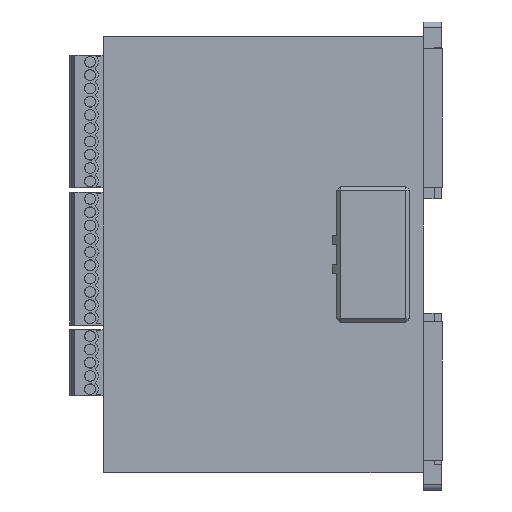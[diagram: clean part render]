
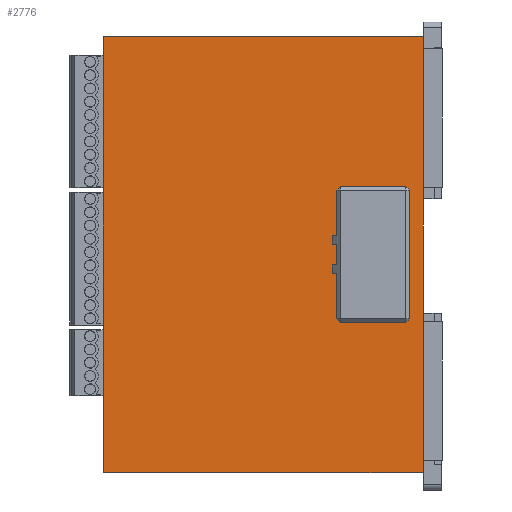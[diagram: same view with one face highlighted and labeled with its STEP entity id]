
A CAD part, left-side view. The second image highlights one B-rep face of the part: STEP entity #2776.
In plain terms, the highlighted planar face has unit normal (-1, 0, 0).
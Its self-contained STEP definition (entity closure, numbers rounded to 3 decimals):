
#631 = LINE ( 'NONE', #5703, #12968 ) ;
#788 = VECTOR ( 'NONE', #21688, 1000. ) ;
#996 = CARTESIAN_POINT ( 'NONE',  ( 0., 21.55, 17.2 ) ) ;
#1423 = VECTOR ( 'NONE', #9023, 1000. ) ;
#1445 = AXIS2_PLACEMENT_3D ( 'NONE', #7266, #7193, #20757 ) ;
#1590 = EDGE_CURVE ( 'NONE', #6653, #5930, #7917, .T. ) ;
#1711 = CARTESIAN_POINT ( 'NONE',  ( 0., 0., 57.5 ) ) ;
#2045 = DIRECTION ( 'NONE',  ( 0., 1., 0. ) ) ;
#2049 = VERTEX_POINT ( 'NONE', #5026 ) ;
#2154 = CARTESIAN_POINT ( 'NONE',  ( 0., 0., -57.5 ) ) ;
#2173 = EDGE_LOOP ( 'NONE', ( #16704, #8273, #7251, #5853 ) ) ;
#2391 = CARTESIAN_POINT ( 'NONE',  ( 0., 0., 57.5 ) ) ;
#2776 = ADVANCED_FACE ( 'NONE', ( #6834, #15293 ), #7059, .F. ) ;
#2826 = VERTEX_POINT ( 'NONE', #2154 ) ;
#3483 = VECTOR ( 'NONE', #20472, 1000. ) ;
#4325 = EDGE_CURVE ( 'NONE', #5930, #10669, #17368, .T. ) ;
#4732 = VECTOR ( 'NONE', #17693, 1000. ) ;
#4739 = DIRECTION ( 'NONE',  ( 0., -1., 0. ) ) ;
#5026 = CARTESIAN_POINT ( 'NONE',  ( 0., 21.55, -17.2 ) ) ;
#5150 = CARTESIAN_POINT ( 'NONE',  ( 0., 21.55, 17.2 ) ) ;
#5637 = ORIENTED_EDGE ( 'NONE', *, *, #1590, .T. ) ;
#5703 = CARTESIAN_POINT ( 'NONE',  ( 0., 84.4, 57.5 ) ) ;
#5766 = VERTEX_POINT ( 'NONE', #11735 ) ;
#5853 = ORIENTED_EDGE ( 'NONE', *, *, #19733, .T. ) ;
#5930 = VERTEX_POINT ( 'NONE', #9012 ) ;
#6638 = LINE ( 'NONE', #17298, #1423 ) ;
#6653 = VERTEX_POINT ( 'NONE', #996 ) ;
#6834 = FACE_OUTER_BOUND ( 'NONE', #2173, .T. ) ;
#7059 = PLANE ( 'NONE',  #1445 ) ;
#7193 = DIRECTION ( 'NONE',  ( 1., 0., 0. ) ) ;
#7194 = LINE ( 'NONE', #1711, #18821 ) ;
#7251 = ORIENTED_EDGE ( 'NONE', *, *, #14107, .F. ) ;
#7266 = CARTESIAN_POINT ( 'NONE',  ( 0., 0., 57.5 ) ) ;
#7917 = LINE ( 'NONE', #5150, #3483 ) ;
#8156 = CARTESIAN_POINT ( 'NONE',  ( 0., 84.4, 57.5 ) ) ;
#8273 = ORIENTED_EDGE ( 'NONE', *, *, #20816, .F. ) ;
#9012 = CARTESIAN_POINT ( 'NONE',  ( 0., 3.75, 17.2 ) ) ;
#9023 = DIRECTION ( 'NONE',  ( 0., -1., 0. ) ) ;
#9048 = ORIENTED_EDGE ( 'NONE', *, *, #4325, .T. ) ;
#9434 = LINE ( 'NONE', #20130, #788 ) ;
#9876 = VECTOR ( 'NONE', #2045, 1000. ) ;
#10469 = CARTESIAN_POINT ( 'NONE',  ( 0., 3.75, -17.2 ) ) ;
#10501 = VECTOR ( 'NONE', #21166, 1000. ) ;
#10669 = VERTEX_POINT ( 'NONE', #10469 ) ;
#11735 = CARTESIAN_POINT ( 'NONE',  ( 0., 0., 57.5 ) ) ;
#11933 = ORIENTED_EDGE ( 'NONE', *, *, #16827, .T. ) ;
#12657 = LINE ( 'NONE', #2391, #4732 ) ;
#12968 = VECTOR ( 'NONE', #15669, 1000. ) ;
#13337 = CARTESIAN_POINT ( 'NONE',  ( 0., 84.4, -57.5 ) ) ;
#14107 = EDGE_CURVE ( 'NONE', #20480, #5766, #7194, .T. ) ;
#14335 = EDGE_CURVE ( 'NONE', #15254, #2826, #6638, .T. ) ;
#14666 = LINE ( 'NONE', #18819, #9876 ) ;
#15254 = VERTEX_POINT ( 'NONE', #13337 ) ;
#15293 = FACE_BOUND ( 'NONE', #16099, .T. ) ;
#15669 = DIRECTION ( 'NONE',  ( 0., 0., -1. ) ) ;
#15951 = CARTESIAN_POINT ( 'NONE',  ( 0., 3.75, 17.2 ) ) ;
#16099 = EDGE_LOOP ( 'NONE', ( #5637, #9048, #21493, #11933 ) ) ;
#16704 = ORIENTED_EDGE ( 'NONE', *, *, #14335, .T. ) ;
#16827 = EDGE_CURVE ( 'NONE', #2049, #6653, #9434, .T. ) ;
#17298 = CARTESIAN_POINT ( 'NONE',  ( 0., 0., -57.5 ) ) ;
#17368 = LINE ( 'NONE', #15951, #10501 ) ;
#17693 = DIRECTION ( 'NONE',  ( 0., 0., -1. ) ) ;
#18365 = EDGE_CURVE ( 'NONE', #10669, #2049, #14666, .T. ) ;
#18819 = CARTESIAN_POINT ( 'NONE',  ( 0., 21.55, -17.2 ) ) ;
#18821 = VECTOR ( 'NONE', #4739, 1000. ) ;
#19733 = EDGE_CURVE ( 'NONE', #20480, #15254, #631, .T. ) ;
#20130 = CARTESIAN_POINT ( 'NONE',  ( 0., 21.55, 17.2 ) ) ;
#20472 = DIRECTION ( 'NONE',  ( 0., -1., 0. ) ) ;
#20480 = VERTEX_POINT ( 'NONE', #8156 ) ;
#20757 = DIRECTION ( 'NONE',  ( 0., 0., -1. ) ) ;
#20816 = EDGE_CURVE ( 'NONE', #5766, #2826, #12657, .T. ) ;
#21166 = DIRECTION ( 'NONE',  ( 0., 0., -1. ) ) ;
#21493 = ORIENTED_EDGE ( 'NONE', *, *, #18365, .T. ) ;
#21688 = DIRECTION ( 'NONE',  ( 0., 0., 1. ) ) ;
